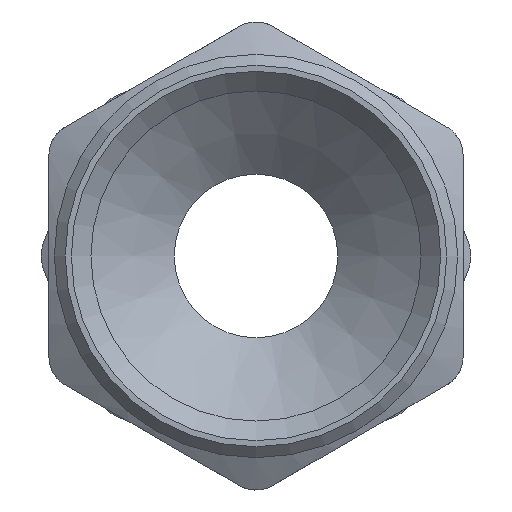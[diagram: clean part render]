
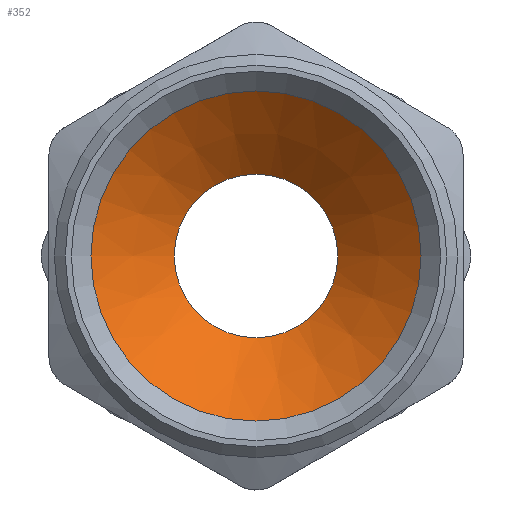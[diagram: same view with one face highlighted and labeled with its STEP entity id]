
A CAD part, front view. The second image highlights one B-rep face of the part: STEP entity #352.
In plain terms, the highlighted conical face has half-angle 50 degrees and reference radius 11.323 mm.
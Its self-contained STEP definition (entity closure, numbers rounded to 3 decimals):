
#352=ADVANCED_FACE('',(#2441,#2443),#2445,.F.);
#2441=FACE_OUTER_BOUND('',#2442,.T.);
#2442=EDGE_LOOP('',(#4579));
#2443=FACE_OUTER_BOUND('',#2444,.T.);
#2444=EDGE_LOOP('',(#4580));
#2445=CONICAL_SURFACE('',#2446,11.323,0.873);
#2446=AXIS2_PLACEMENT_3D('',#2447,#2448,#2449);
#2447=CARTESIAN_POINT('',(0.,22.708,0.));
#2448=DIRECTION('',(0.,-1.,0.));
#2449=DIRECTION('',(1.,0.,0.));
#4579=ORIENTED_EDGE('',*,*,#5418,.T.);
#4580=ORIENTED_EDGE('',*,*,#5420,.F.);
#5418=EDGE_CURVE('',#6772,#6772,#6773,.T.);
#5420=EDGE_CURVE('',#6776,#6776,#6777,.T.);
#6772=VERTEX_POINT('',#12393);
#6773=CIRCLE('',#12394,15.146);
#6776=VERTEX_POINT('',#12403);
#6777=CIRCLE('',#12404,7.5);
#12393=CARTESIAN_POINT('',(15.146,19.5,0.));
#12394=AXIS2_PLACEMENT_3D('',#12395,#12396,#12397);
#12395=CARTESIAN_POINT('',(0.,19.5,0.));
#12396=DIRECTION('',(0.,-1.,0.));
#12397=DIRECTION('',(1.,0.,0.));
#12403=CARTESIAN_POINT('',(7.5,25.916,0.));
#12404=AXIS2_PLACEMENT_3D('',#12405,#12406,#12407);
#12405=CARTESIAN_POINT('',(0.,25.916,0.));
#12406=DIRECTION('',(0.,-1.,0.));
#12407=DIRECTION('',(1.,0.,0.));
